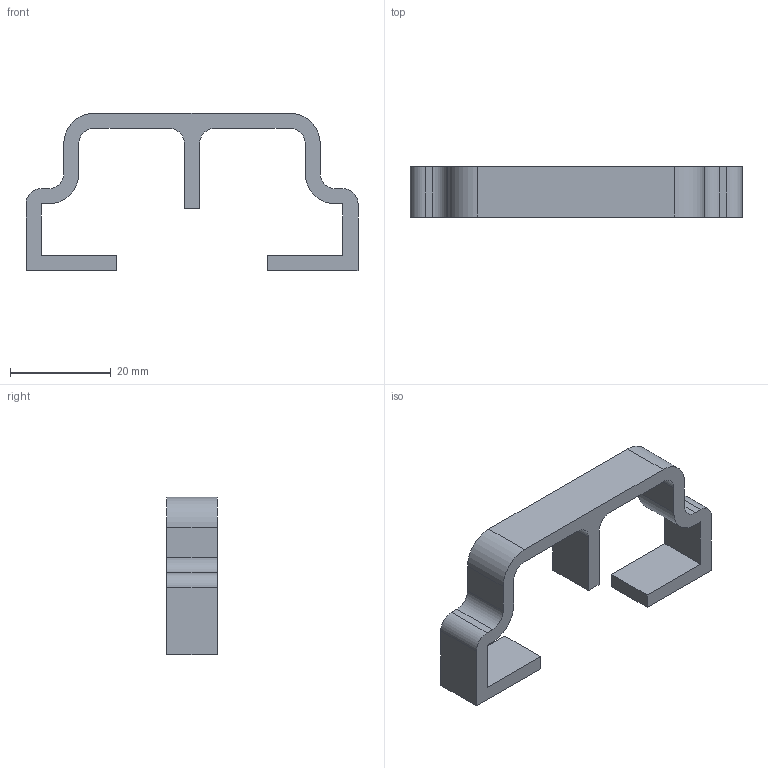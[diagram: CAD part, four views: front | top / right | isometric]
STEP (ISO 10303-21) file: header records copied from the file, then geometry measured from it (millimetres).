
FILE_DESCRIPTION((''),'2;1');
FILE_NAME('0000237222_PRT','2025-11-12T18:39:19',('Wyndorps'),(''),'CREO PARAMETRIC BY PTC INC, 2025010','CREO PARAMETRIC BY PTC INC, 2025010','');
FILE_SCHEMA(('CONFIG_CONTROL_DESIGN'));
Length unit declared in the file: millimetre
Products named in the file (1): 0000237222_PRT
Bounding box: 66 x 10 x 31.3 mm (x, y, z)
Volume: 4826.2 mm3; surface area: 4191.2 mm2
Topology: 1 solids, 1 shells, 38 faces, 108 edges, 72 vertices
Faces by surface type: plane 26, cylinder 12
Entity records: 1274 total; most frequent: CARTESIAN_POINT 218, ORIENTED_EDGE 216, DIRECTION 208, EDGE_CURVE 108, VECTOR 84, LINE 84, VERTEX_POINT 72, AXIS2_PLACEMENT_3D 62
